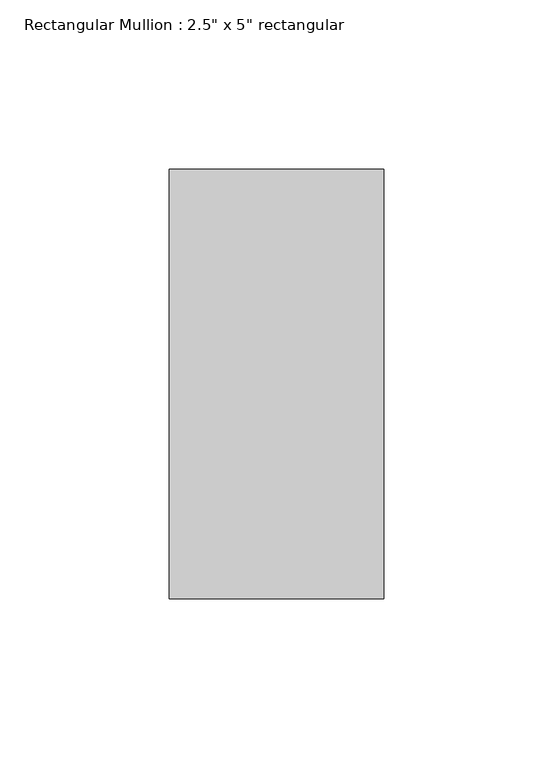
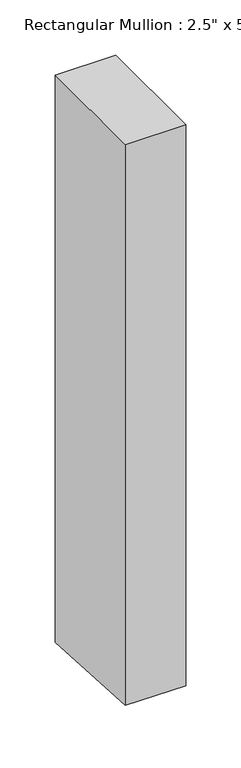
"""IFC4 building model written with IfcOpenShell, lengths in millimetres: member geometry."""

from ifc_helpers import new_model, si_unit, origin, place, context, project, spatial, faceted_brep, source, transform, mapped, element, save


def member_ef28eaa1(model_context):
    return source(origin(), model_context, "Body", "Brep", [
        faceted_brep([(0.0, 63.5, 0.0), (-63.5, 63.5, 0.0), (-63.5, -63.5, 0.0), (0.0, -63.5, 0.0), (0.0, 63.5, -629.5888061), (-63.5, 63.5, -628.7730977), (-63.5, -63.5, -621.4729024), (0.0, -63.5, -622.2886108)], [[[0, 1, 2, 3]], [[1, 0, 4, 5]], [[2, 1, 5, 6]], [[3, 2, 6, 7]], [[0, 3, 7, 4]], [[4, 7, 6, 5]]]),
    ])


if __name__ == "__main__":
    model = new_model("IFC4")
    model_context = context("Model", 3, world=origin())
    ifc_project = project(units=[si_unit("LENGTHUNIT", "METRE", prefix="MILLI")], contexts=[model_context])
    site = spatial("IfcSite", under=ifc_project)
    building = spatial("IfcBuilding", under=site)
    placement = place(None, origin())
    member_shape = member_ef28eaa1(model_context)
    element("IfcMember", 1, ObjectType="Rectangular Mullion : 2.5\" x 5\" rectangular", at=placement, inside=building, context=model_context, shape_type="MappedRepresentation", body=[
        mapped(member_shape, transform((0.0, 0.0, 0.0), x_axis=(1.0, 0.0, 0.0), y_axis=(0.0, 1.0, 0.0), z_axis=(0.0, 0.0, 1.0))),
    ])
    save(model, "model.ifc")
